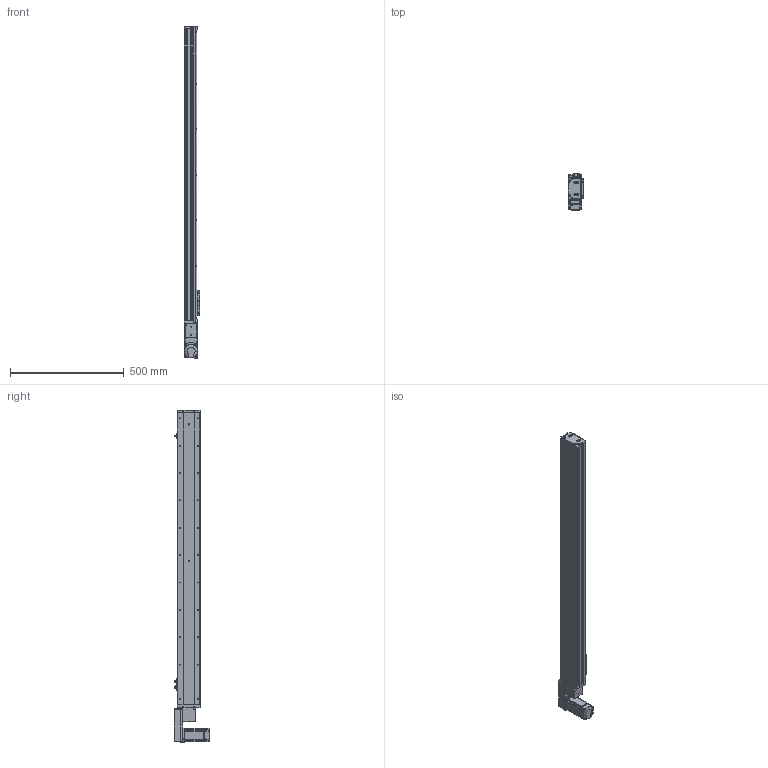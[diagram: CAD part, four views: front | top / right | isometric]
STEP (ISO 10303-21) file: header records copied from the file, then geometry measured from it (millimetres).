
FILE_DESCRIPTION (( 'STEP AP214' ), '1' );
FILE_NAME ('KSD100B-S1100-MLB-CR.STEP', '2019-09-06T08:37:43', ( '微软用户' ), ( '微软中国' ), 'SwSTEP 2.0', 'SolidWorks 2014', '' );
FILE_SCHEMA (( 'AUTOMOTIVE_DESIGN' ));
Length unit declared in the file: millimetre
Products named in the file (15): U倰嫖萇EEㄜSX672; 100宽马达安装板同步带左; 100遵鎮湛假蚾啣蜊; 100宽端板同步带全封闭; 100宽滚珠螺姆安装板1防护罩; 100宽滚珠螺姆安装板1; 100遵裔啣揤啣; 100遵裔啣1100俴最; 100宽侧板1100行程同步带; 100宽底板全封闭1100行程同步带; KSD100B-S1100-MLB-CR; 悵誘欶奻狟殏; MHMD042G1CA_2_03; 100宽马达安装板连板上下折丝杆同步带; 感应片100宽全封闭
Assembly tree (18 placements, depth 2):
  KSD100B-S1100-MLB-CR
    100宽底板全封闭1100行程同步带
    100宽侧板1100行程同步带  x2
    100遵裔啣1100俴最
    100遵裔啣揤啣  x2
    100宽滚珠螺姆安装板1
    100宽滚珠螺姆安装板1防护罩
    100宽端板同步带全封闭
    100遵鎮湛假蚾啣蜊
    100宽马达安装板同步带左
    U倰嫖萇EEㄜSX672  x3
    感应片100宽全封闭
    100宽马达安装板连板上下折丝杆同步带
    悵誘欶奻狟殏
    MHMD042G1CA_2_03
Bounding box: 70 x 156.2 x 1457 mm (x, y, z)
Volume: 2681715.5 mm3; surface area: 1184806.6 mm2
Topology: 17 solids, 18 shells, 1853 faces, 5174 edges, 3295 vertices
Faces by surface type: cylinder 837, plane 737, cone 259, bspline 20
Entity records: 65718 total; most frequent: CARTESIAN_POINT 10098, DIRECTION 8998, ORIENTED_EDGE 8284, EDGE_CURVE 4214, AXIS2_PLACEMENT_3D 3269, VERTEX_POINT 2793, LINE 2460, VECTOR 2460
